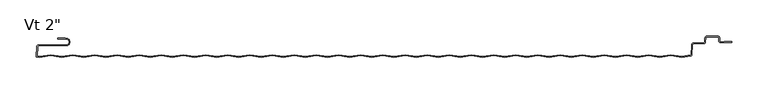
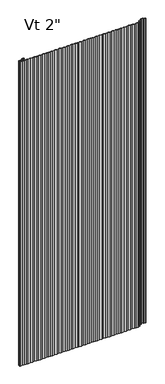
"""IFC4 building model written with IfcOpenShell, lengths in millimetres: plate geometry."""

from ifc_helpers import new_model, si_unit, point, frame, origin, place, context, project, spatial, polyline, circle_curve, ellipse_curve, trimmed, source, transform, mapped, element, save
from ifc_brep_helpers import plane_surface, cylinder_surface, revolved_surface, extruded_surface, advanced_brep


def plate_464a89f8(model_context):
    return source(origin(), model_context, "Body", "AdvancedBrep", [
        advanced_brep(
        [(-480.4252049, -25.4, 2400.0), (-480.4252049, -26.9875, 2400.0), (-469.1142674, -26.9875, 2400.0), (-469.1142674, -34.925, 2400.0), (-507.2975721, -34.925, 2400.0), (-509.6755586, -37.181625, 2400.0), (-510.41832, -51.3543553, 2400.0), (-506.0646686, -52.0509395, 2400.0), (-490.8246686, -49.6125395, 2400.0), (-475.5846686, -52.0509395, 2400.0), (-460.3446686, -49.6125395, 2400.0), (-445.1046686, -52.0509395, 2400.0), (-429.8646686, -49.6125395, 2400.0), (-414.6246686, -52.0509395, 2400.0), (-399.3846686, -49.6125395, 2400.0), (-384.1446686, -52.0509395, 2400.0), (-368.9046686, -49.6125395, 2400.0), (-353.6646686, -52.0509395, 2400.0), (-338.4246686, -49.6125395, 2400.0), (-323.1846686, -52.0509395, 2400.0), (-307.9446686, -49.6125395, 2400.0), (-292.7046686, -52.0509395, 2400.0), (-277.4646686, -49.6125395, 2400.0), (-262.2246686, -52.0509395, 2400.0), (-246.9846686, -49.6125395, 2400.0), (-231.7446686, -52.0509395, 2400.0), (-216.5046686, -49.6125395, 2400.0), (-201.2646686, -52.0509395, 2400.0), (-186.0246686, -49.6125395, 2400.0), (-170.7846686, -52.0509395, 2400.0), (-155.5446686, -49.6125395, 2400.0), (-140.3046686, -52.0509395, 2400.0), (-125.0646686, -49.6125395, 2400.0), (-109.8246686, -52.0509395, 2400.0), (-94.5846686, -49.6125395, 2400.0), (-79.3446686, -52.0509395, 2400.0), (-64.1046686, -49.6125395, 2400.0), (-48.8646686, -52.0509395, 2400.0), (-33.6246686, -49.6125395, 2400.0), (-18.3846686, -52.0509395, 2400.0), (-3.1446686, -49.6125395, 2400.0), (12.0953314, -52.0509395, 2400.0), (27.3353314, -49.6125395, 2400.0), (42.5753314, -52.0509395, 2400.0), (57.8153314, -49.6125395, 2400.0), (73.0553314, -52.0509395, 2400.0), (88.2953314, -49.6125395, 2400.0), (103.5353314, -52.0509395, 2400.0), (118.7753314, -49.6125395, 2400.0), (134.0153314, -52.0509395, 2400.0), (149.2553314, -49.6125395, 2400.0), (164.4953314, -52.0509395, 2400.0), (179.7353314, -49.6125395, 2400.0), (194.9753314, -52.0509395, 2400.0), (210.2153314, -49.6125395, 2400.0), (225.4553314, -52.0509395, 2400.0), (240.6953314, -49.6125395, 2400.0), (255.9353314, -52.0509395, 2400.0), (271.1753314, -49.6125395, 2400.0), (286.4153314, -52.0509395, 2400.0), (301.6553314, -49.6125395, 2400.0), (316.8953314, -52.0509395, 2400.0), (332.1353314, -49.6125395, 2400.0), (347.3753314, -52.0509395, 2400.0), (362.6153314, -49.6125395, 2400.0), (377.6527639, -52.0185287, 2400.0), (390.0944828, -50.0278537, 2400.0), (391.4289973, -48.543375, 2400.0), (392.1470603, -34.8419167, 2400.0), (393.7323847, -33.3375, 2400.0), (407.8886911, -33.3375, 2400.0), (410.2666776, -31.080875, 2400.0), (410.5687539, -25.3169167, 2400.0), (412.1540783, -23.8125, 2400.0), (427.0294826, -23.8125, 2400.0), (428.6169826, -25.4, 2400.0), (428.6169826, -29.5671875, 2400.0), (430.9982326, -31.9484375, 2400.0), (445.4898532, -31.9484375, 2400.0), (445.4898532, -30.1546875, 2400.0), (435.7607326, -30.1546875, 2400.0), (435.7607326, -30.9484375, 2400.0), (430.9982326, -30.9484375, 2400.0), (429.6169826, -29.5671875, 2400.0), (429.6169826, -25.4, 2400.0), (427.0294826, -22.8125, 2400.0), (412.1540783, -22.8125, 2400.0), (409.5701244, -25.2645807, 2400.0), (409.2680481, -31.028539, 2400.0), (407.8886911, -32.3375, 2400.0), (393.7323847, -32.3375, 2400.0), (391.1484307, -34.7895807, 2400.0), (390.4303677, -48.491039, 2400.0), (389.9364923, -49.040413, 2400.0), (377.6527639, -51.0058096, 2400.0), (362.6153314, -48.5998204, 2400.0), (347.3753314, -51.0382204, 2400.0), (332.1353314, -48.5998204, 2400.0), (316.8953314, -51.0382204, 2400.0), (301.6553314, -48.5998204, 2400.0), (286.4153314, -51.0382204, 2400.0), (271.1753314, -48.5998204, 2400.0), (255.9353314, -51.0382204, 2400.0), (240.6953314, -48.5998204, 2400.0), (225.4553314, -51.0382204, 2400.0), (210.2153314, -48.5998204, 2400.0), (194.9753314, -51.0382204, 2400.0), (179.7353314, -48.5998204, 2400.0), (164.4953314, -51.0382204, 2400.0), (149.2553314, -48.5998204, 2400.0), (134.0153314, -51.0382204, 2400.0), (118.7753314, -48.5998204, 2400.0), (103.5353314, -51.0382204, 2400.0), (88.2953314, -48.5998204, 2400.0), (73.0553314, -51.0382204, 2400.0), (57.8153314, -48.5998204, 2400.0), (42.5753314, -51.0382204, 2400.0), (27.3353314, -48.5998204, 2400.0), (12.0953314, -51.0382204, 2400.0), (-3.1446686, -48.5998204, 2400.0), (-18.3846686, -51.0382204, 2400.0), (-33.6246686, -48.5998204, 2400.0), (-48.8646686, -51.0382204, 2400.0), (-64.1046686, -48.5998204, 2400.0), (-79.3446686, -51.0382204, 2400.0), (-94.5846686, -48.5998204, 2400.0), (-109.8246686, -51.0382204, 2400.0), (-125.0646686, -48.5998204, 2400.0), (-140.3046686, -51.0382204, 2400.0), (-155.5446686, -48.5998204, 2400.0), (-170.7846686, -51.0382204, 2400.0), (-186.0246686, -48.5998204, 2400.0), (-201.2646686, -51.0382204, 2400.0), (-216.5046686, -48.5998204, 2400.0), (-231.7446686, -51.0382204, 2400.0), (-246.9846686, -48.5998204, 2400.0), (-262.2246686, -51.0382204, 2400.0), (-277.4646686, -48.5998204, 2400.0), (-292.7046686, -51.0382204, 2400.0), (-307.9446686, -48.5998204, 2400.0), (-323.1846686, -51.0382204, 2400.0), (-338.4246686, -48.5998204, 2400.0), (-353.6646686, -51.0382204, 2400.0), (-368.9046686, -48.5998204, 2400.0), (-384.1446686, -51.0382204, 2400.0), (-399.3846686, -48.5998204, 2400.0), (-414.6246686, -51.0382204, 2400.0), (-429.8646686, -48.5998204, 2400.0), (-445.1046686, -51.0382204, 2400.0), (-460.3446686, -48.5998204, 2400.0), (-475.5846686, -51.0382204, 2400.0), (-490.8246686, -48.5998204, 2400.0), (-506.0646686, -51.0382204, 2400.0), (-509.3726415, -50.5089447, 2400.0), (-508.6769291, -37.233961, 2400.0), (-507.2975721, -35.925, 2400.0), (-469.1142674, -35.925, 2400.0), (-469.1142674, -25.9875, 2400.0), (-470.7017674, -26.19375, 2400.0), (-470.7017674, -25.4, 2400.0), (-480.4252049, -25.4, 0.0), (-470.7017674, -25.4, 0.0), (-470.7017674, -26.19375, 0.0), (-469.1142674, -25.9875, 0.0), (-469.1142674, -35.925, 0.0), (-507.2975721, -35.925, 0.0), (-508.6769291, -37.233961, 0.0), (-509.3726415, -50.5089447, 0.0), (-506.0646686, -51.0382204, 0.0), (-490.8246686, -48.5998204, 0.0), (-475.5846686, -51.0382204, 0.0), (-460.3446686, -48.5998204, 0.0), (-445.1046686, -51.0382204, 0.0), (-429.8646686, -48.5998204, 0.0), (-414.6246686, -51.0382204, 0.0), (-399.3846686, -48.5998204, 0.0), (-384.1446686, -51.0382204, 0.0), (-368.9046686, -48.5998204, 0.0), (-353.6646686, -51.0382204, 0.0), (-338.4246686, -48.5998204, 0.0), (-323.1846686, -51.0382204, 0.0), (-307.9446686, -48.5998204, 0.0), (-292.7046686, -51.0382204, 0.0), (-277.4646686, -48.5998204, 0.0), (-262.2246686, -51.0382204, 0.0), (-246.9846686, -48.5998204, 0.0), (-231.7446686, -51.0382204, 0.0), (-216.5046686, -48.5998204, 0.0), (-201.2646686, -51.0382204, 0.0), (-186.0246686, -48.5998204, 0.0), (-170.7846686, -51.0382204, 0.0), (-155.5446686, -48.5998204, 0.0), (-140.3046686, -51.0382204, 0.0), (-125.0646686, -48.5998204, 0.0), (-109.8246686, -51.0382204, 0.0), (-94.5846686, -48.5998204, 0.0), (-79.3446686, -51.0382204, 0.0), (-64.1046686, -48.5998204, 0.0), (-48.8646686, -51.0382204, 0.0), (-33.6246686, -48.5998204, 0.0), (-18.3846686, -51.0382204, 0.0), (-3.1446686, -48.5998204, 0.0), (12.0953314, -51.0382204, 0.0), (27.3353314, -48.5998204, 0.0), (42.5753314, -51.0382204, 0.0), (57.8153314, -48.5998204, 0.0), (73.0553314, -51.0382204, 0.0), (88.2953314, -48.5998204, 0.0), (103.5353314, -51.0382204, 0.0), (118.7753314, -48.5998204, 0.0), (134.0153314, -51.0382204, 0.0), (149.2553314, -48.5998204, 0.0), (164.4953314, -51.0382204, 0.0), (179.7353314, -48.5998204, 0.0), (194.9753314, -51.0382204, 0.0), (210.2153314, -48.5998204, 0.0), (225.4553314, -51.0382204, 0.0), (240.6953314, -48.5998204, 0.0), (255.9353314, -51.0382204, 0.0), (271.1753314, -48.5998204, 0.0), (286.4153314, -51.0382204, 0.0), (301.6553314, -48.5998204, 0.0), (316.8953314, -51.0382204, 0.0), (332.1353314, -48.5998204, 0.0), (347.3753314, -51.0382204, 0.0), (362.6153314, -48.5998204, 0.0), (377.6527639, -51.0058096, 0.0), (389.9364923, -49.040413, 0.0), (390.4303677, -48.491039, 0.0), (391.1484307, -34.7895807, 0.0), (393.7323847, -32.3375, 0.0), (407.8886911, -32.3375, 0.0), (409.2680481, -31.028539, 0.0), (409.5701244, -25.2645807, 0.0), (412.1540783, -22.8125, 0.0), (427.0294826, -22.8125, 0.0), (429.6169826, -25.4, 0.0), (429.6169826, -29.5671875, 0.0), (430.9982326, -30.9484375, 0.0), (435.7607326, -30.9484375, 0.0), (435.7607326, -30.1546875, 0.0), (445.4898532, -30.1546875, 0.0), (445.4898532, -31.9484375, 0.0), (430.9982326, -31.9484375, 0.0), (428.6169826, -29.5671875, 0.0), (428.6169826, -25.4, 0.0), (427.0294826, -23.8125, 0.0), (412.1540783, -23.8125, 0.0), (410.5687539, -25.3169167, 0.0), (410.2666776, -31.080875, 0.0), (407.8886911, -33.3375, 0.0), (393.7323847, -33.3375, 0.0), (392.1470603, -34.8419167, 0.0), (391.4289973, -48.543375, 0.0), (390.0944828, -50.0278537, 0.0), (377.6527639, -52.0185287, 0.0), (362.6153314, -49.6125395, 0.0), (347.3753314, -52.0509395, 0.0), (332.1353314, -49.6125395, 0.0), (316.8953314, -52.0509395, 0.0), (301.6553314, -49.6125395, 0.0), (286.4153314, -52.0509395, 0.0), (271.1753314, -49.6125395, 0.0), (255.9353314, -52.0509395, 0.0), (240.6953314, -49.6125395, 0.0), (225.4553314, -52.0509395, 0.0), (210.2153314, -49.6125395, 0.0), (194.9753314, -52.0509395, 0.0), (179.7353314, -49.6125395, 0.0), (164.4953314, -52.0509395, 0.0), (149.2553314, -49.6125395, 0.0), (134.0153314, -52.0509395, 0.0), (118.7753314, -49.6125395, 0.0), (103.5353314, -52.0509395, 0.0), (88.2953314, -49.6125395, 0.0), (73.0553314, -52.0509395, 0.0), (57.8153314, -49.6125395, 0.0), (42.5753314, -52.0509395, 0.0), (27.3353314, -49.6125395, 0.0), (12.0953314, -52.0509395, 0.0), (-3.1446686, -49.6125395, 0.0), (-18.3846686, -52.0509395, 0.0), (-33.6246686, -49.6125395, 0.0), (-48.8646686, -52.0509395, 0.0), (-64.1046686, -49.6125395, 0.0), (-79.3446686, -52.0509395, 0.0), (-94.5846686, -49.6125395, 0.0), (-109.8246686, -52.0509395, 0.0), (-125.0646686, -49.6125395, 0.0), (-140.3046686, -52.0509395, 0.0), (-155.5446686, -49.6125395, 0.0), (-170.7846686, -52.0509395, 0.0), (-186.0246686, -49.6125395, 0.0), (-201.2646686, -52.0509395, 0.0), (-216.5046686, -49.6125395, 0.0), (-231.7446686, -52.0509395, 0.0), (-246.9846686, -49.6125395, 0.0), (-262.2246686, -52.0509395, 0.0), (-277.4646686, -49.6125395, 0.0), (-292.7046686, -52.0509395, 0.0), (-307.9446686, -49.6125395, 0.0), (-323.1846686, -52.0509395, 0.0), (-338.4246686, -49.6125395, 0.0), (-353.6646686, -52.0509395, 0.0), (-368.9046686, -49.6125395, 0.0), (-384.1446686, -52.0509395, 0.0), (-399.3846686, -49.6125395, 0.0), (-414.6246686, -52.0509395, 0.0), (-429.8646686, -49.6125395, 0.0), (-445.1046686, -52.0509395, 0.0), (-460.3446686, -49.6125395, 0.0), (-475.5846686, -52.0509395, 0.0), (-490.8246686, -49.6125395, 0.0), (-506.0646686, -52.0509395, 0.0), (-510.41832, -51.3543553, 0.0), (-509.6755586, -37.181625, 0.0), (-507.2975721, -34.925, 0.0), (-469.1142674, -34.925, 0.0), (-469.1142674, -26.9875, 0.0), (-480.4252049, -26.9875, 0.0)],
        [
            (0, 1, circle_curve(frame((-480.4252049, -26.19375, 2400.0), z_axis=(0.0, 0.0, 1.0), x_axis=(1.0, 0.0, 0.0)), 0.79375)),
            (1, 2),
            (2, 3, circle_curve(frame((-469.1142674, -30.95625, 2400.0), z_axis=(0.0, 0.0, -1.0), x_axis=(1.0, 0.0, 0.0)), 3.96875)),
            (3, 4),
            (4, 5, circle_curve(frame((-507.2975721, -37.30625, 2400.0), z_axis=(0.0, 0.0, 1.0), x_axis=(1.0, 0.0, 0.0)), 2.38125)),
            (5, 6),
            (6, 7),
            (7, 8),
            (8, 9),
            (9, 10),
            (10, 11),
            (11, 12),
            (12, 13),
            (13, 14),
            (14, 15),
            (15, 16),
            (16, 17),
            (17, 18),
            (18, 19),
            (19, 20),
            (20, 21),
            (21, 22),
            (22, 23),
            (23, 24),
            (24, 25),
            (25, 26),
            (26, 27),
            (27, 28),
            (28, 29),
            (29, 30),
            (30, 31),
            (31, 32),
            (32, 33),
            (33, 34),
            (34, 35),
            (35, 36),
            (36, 37),
            (37, 38),
            (38, 39),
            (39, 40),
            (40, 41),
            (41, 42),
            (42, 43),
            (43, 44),
            (44, 45),
            (45, 46),
            (46, 47),
            (47, 48),
            (48, 49),
            (49, 50),
            (50, 51),
            (51, 52),
            (52, 53),
            (53, 54),
            (54, 55),
            (55, 56),
            (56, 57),
            (57, 58),
            (58, 59),
            (59, 60),
            (60, 61),
            (61, 62),
            (62, 63),
            (63, 64),
            (64, 65),
            (65, 66),
            (66, 67, circle_curve(frame((389.8436729, -48.4602917, 2400.0), z_axis=(0.0, 0.0, 1.0), x_axis=(1.0, 0.0, 0.0)), 1.5875)),
            (67, 68),
            (68, 69, circle_curve(frame((393.7323847, -34.925, 2400.0), z_axis=(0.0, 0.0, -1.0), x_axis=(1.0, 0.0, 0.0)), 1.5875)),
            (69, 70),
            (70, 71, circle_curve(frame((407.8886911, -30.95625, 2400.0), z_axis=(0.0, 0.0, 1.0), x_axis=(1.0, 0.0, 0.0)), 2.38125)),
            (71, 72),
            (72, 73, circle_curve(frame((412.1540783, -25.4, 2400.0), z_axis=(0.0, 0.0, -1.0), x_axis=(1.0, 0.0, 0.0)), 1.5875)),
            (73, 74),
            (74, 75, circle_curve(frame((427.0294826, -25.4, 2400.0), z_axis=(0.0, 0.0, -1.0), x_axis=(1.0, 0.0, 0.0)), 1.5875)),
            (75, 76),
            (76, 77, circle_curve(frame((430.9982326, -29.5671875, 2400.0), z_axis=(0.0, 0.0, 1.0), x_axis=(1.0, 0.0, 0.0)), 2.38125)),
            (77, 78),
            (78, 79, ellipse_curve(frame((445.4898532, -31.0515625, 2400.0), z_axis=(0.0, 0.0, 1.0), x_axis=(0.0, 1.0, 0.0)), 0.896875, 0.7852275)),
            (79, 80),
            (80, 81),
            (81, 82),
            (82, 83, circle_curve(frame((430.9982326, -29.5671875, 2400.0), z_axis=(0.0, 0.0, -1.0), x_axis=(1.0, 0.0, 0.0)), 1.38125)),
            (83, 84),
            (84, 85, circle_curve(frame((427.0294826, -25.4, 2400.0), z_axis=(0.0, 0.0, 1.0), x_axis=(1.0, 0.0, 0.0)), 2.5875)),
            (85, 86),
            (86, 87, circle_curve(frame((412.1540783, -25.4, 2400.0), z_axis=(0.0, 0.0, 1.0), x_axis=(1.0, 0.0, 0.0)), 2.5875)),
            (87, 88),
            (88, 89, circle_curve(frame((407.8886911, -30.95625, 2400.0), z_axis=(0.0, 0.0, -1.0), x_axis=(1.0, 0.0, 0.0)), 1.38125)),
            (89, 90),
            (90, 91, circle_curve(frame((393.7323847, -34.925, 2400.0), z_axis=(0.0, 0.0, 1.0), x_axis=(1.0, 0.0, 0.0)), 2.5875)),
            (91, 92),
            (92, 93, circle_curve(frame((389.8436729, -48.4602917, 2400.0), z_axis=(0.0, 0.0, -1.0), x_axis=(1.0, 0.0, 0.0)), 0.5875)),
            (93, 94),
            (94, 95),
            (95, 96),
            (96, 97),
            (97, 98),
            (98, 99),
            (99, 100),
            (100, 101),
            (101, 102),
            (102, 103),
            (103, 104),
            (104, 105),
            (105, 106),
            (106, 107),
            (107, 108),
            (108, 109),
            (109, 110),
            (110, 111),
            (111, 112),
            (112, 113),
            (113, 114),
            (114, 115),
            (115, 116),
            (116, 117),
            (117, 118),
            (118, 119),
            (119, 120),
            (120, 121),
            (121, 122),
            (122, 123),
            (123, 124),
            (124, 125),
            (125, 126),
            (126, 127),
            (127, 128),
            (128, 129),
            (129, 130),
            (130, 131),
            (131, 132),
            (132, 133),
            (133, 134),
            (134, 135),
            (135, 136),
            (136, 137),
            (137, 138),
            (138, 139),
            (139, 140),
            (140, 141),
            (141, 142),
            (142, 143),
            (143, 144),
            (144, 145),
            (145, 146),
            (146, 147),
            (147, 148),
            (148, 149),
            (149, 150),
            (150, 151),
            (151, 152),
            (152, 153),
            (153, 154),
            (154, 155, circle_curve(frame((-507.2975721, -37.30625, 2400.0), z_axis=(0.0, 0.0, -1.0), x_axis=(1.0, 0.0, 0.0)), 1.38125)),
            (155, 156),
            (156, 157, circle_curve(frame((-469.1142674, -30.95625, 2400.0), z_axis=(0.0, 0.0, 1.0), x_axis=(1.0, 0.0, 0.0)), 4.96875)),
            (157, 158),
            (158, 159),
            (159, 0),
            (160, 161),
            (161, 162),
            (162, 163),
            (163, 164, circle_curve(frame((-469.1142674, -30.95625, 0.0), z_axis=(0.0, 0.0, -1.0), x_axis=(1.0, 0.0, 0.0)), 4.96875)),
            (164, 165),
            (165, 166, circle_curve(frame((-507.2975721, -37.30625, 0.0), z_axis=(0.0, 0.0, 1.0), x_axis=(1.0, 0.0, 0.0)), 1.38125)),
            (166, 167),
            (167, 168),
            (168, 169),
            (169, 170),
            (170, 171),
            (171, 172),
            (172, 173),
            (173, 174),
            (174, 175),
            (175, 176),
            (176, 177),
            (177, 178),
            (178, 179),
            (179, 180),
            (180, 181),
            (181, 182),
            (182, 183),
            (183, 184),
            (184, 185),
            (185, 186),
            (186, 187),
            (187, 188),
            (188, 189),
            (189, 190),
            (190, 191),
            (191, 192),
            (192, 193),
            (193, 194),
            (194, 195),
            (195, 196),
            (196, 197),
            (197, 198),
            (198, 199),
            (199, 200),
            (200, 201),
            (201, 202),
            (202, 203),
            (203, 204),
            (204, 205),
            (205, 206),
            (206, 207),
            (207, 208),
            (208, 209),
            (209, 210),
            (210, 211),
            (211, 212),
            (212, 213),
            (213, 214),
            (214, 215),
            (215, 216),
            (216, 217),
            (217, 218),
            (218, 219),
            (219, 220),
            (220, 221),
            (221, 222),
            (222, 223),
            (223, 224),
            (224, 225),
            (225, 226),
            (226, 227),
            (227, 228, circle_curve(frame((389.8436729, -48.4602917, 0.0), z_axis=(0.0, 0.0, 1.0), x_axis=(1.0, 0.0, 0.0)), 0.5875)),
            (228, 229),
            (229, 230, circle_curve(frame((393.7323847, -34.925, 0.0), z_axis=(0.0, 0.0, -1.0), x_axis=(1.0, 0.0, 0.0)), 2.5875)),
            (230, 231),
            (231, 232, circle_curve(frame((407.8886911, -30.95625, 0.0), z_axis=(0.0, 0.0, 1.0), x_axis=(1.0, 0.0, 0.0)), 1.38125)),
            (232, 233),
            (233, 234, circle_curve(frame((412.1540783, -25.4, 0.0), z_axis=(0.0, 0.0, -1.0), x_axis=(1.0, 0.0, 0.0)), 2.5875)),
            (234, 235),
            (235, 236, circle_curve(frame((427.0294826, -25.4, 0.0), z_axis=(0.0, 0.0, -1.0), x_axis=(1.0, 0.0, 0.0)), 2.5875)),
            (236, 237),
            (237, 238, circle_curve(frame((430.9982326, -29.5671875, 0.0), z_axis=(0.0, 0.0, 1.0), x_axis=(1.0, 0.0, 0.0)), 1.38125)),
            (238, 239),
            (239, 240),
            (240, 241),
            (241, 242, ellipse_curve(frame((445.4898532, -31.0515625, 0.0), z_axis=(0.0, 0.0, -1.0), x_axis=(0.0, 1.0, 0.0)), 0.896875, 0.7852275)),
            (242, 243),
            (243, 244, circle_curve(frame((430.9982326, -29.5671875, 0.0), z_axis=(0.0, 0.0, -1.0), x_axis=(1.0, 0.0, 0.0)), 2.38125)),
            (244, 245),
            (245, 246, circle_curve(frame((427.0294826, -25.4, 0.0), z_axis=(0.0, 0.0, 1.0), x_axis=(1.0, 0.0, 0.0)), 1.5875)),
            (246, 247),
            (247, 248, circle_curve(frame((412.1540783, -25.4, 0.0), z_axis=(0.0, 0.0, 1.0), x_axis=(1.0, 0.0, 0.0)), 1.5875)),
            (248, 249),
            (249, 250, circle_curve(frame((407.8886911, -30.95625, 0.0), z_axis=(0.0, 0.0, -1.0), x_axis=(1.0, 0.0, 0.0)), 2.38125)),
            (250, 251),
            (251, 252, circle_curve(frame((393.7323847, -34.925, 0.0), z_axis=(0.0, 0.0, 1.0), x_axis=(1.0, 0.0, 0.0)), 1.5875)),
            (252, 253),
            (253, 254, circle_curve(frame((389.8436729, -48.4602917, 0.0), z_axis=(0.0, 0.0, -1.0), x_axis=(1.0, 0.0, 0.0)), 1.5875)),
            (254, 255),
            (255, 256),
            (256, 257),
            (257, 258),
            (258, 259),
            (259, 260),
            (260, 261),
            (261, 262),
            (262, 263),
            (263, 264),
            (264, 265),
            (265, 266),
            (266, 267),
            (267, 268),
            (268, 269),
            (269, 270),
            (270, 271),
            (271, 272),
            (272, 273),
            (273, 274),
            (274, 275),
            (275, 276),
            (276, 277),
            (277, 278),
            (278, 279),
            (279, 280),
            (280, 281),
            (281, 282),
            (282, 283),
            (283, 284),
            (284, 285),
            (285, 286),
            (286, 287),
            (287, 288),
            (288, 289),
            (289, 290),
            (290, 291),
            (291, 292),
            (292, 293),
            (293, 294),
            (294, 295),
            (295, 296),
            (296, 297),
            (297, 298),
            (298, 299),
            (299, 300),
            (300, 301),
            (301, 302),
            (302, 303),
            (303, 304),
            (304, 305),
            (305, 306),
            (306, 307),
            (307, 308),
            (308, 309),
            (309, 310),
            (310, 311),
            (311, 312),
            (312, 313),
            (313, 314),
            (314, 315),
            (315, 316, circle_curve(frame((-507.2975721, -37.30625, 0.0), z_axis=(0.0, 0.0, -1.0), x_axis=(1.0, 0.0, 0.0)), 2.38125)),
            (316, 317),
            (317, 318, circle_curve(frame((-469.1142674, -30.95625, 0.0), z_axis=(0.0, 0.0, 1.0), x_axis=(1.0, 0.0, 0.0)), 3.96875)),
            (318, 319),
            (319, 160, circle_curve(frame((-480.4252049, -26.19375, 0.0), z_axis=(0.0, 0.0, -1.0), x_axis=(1.0, 0.0, 0.0)), 0.79375)),
            (159, 161),
            (160, 0),
            (319, 1),
            (318, 2),
            (317, 3),
            (316, 4),
            (315, 5),
            (314, 6),
            (68, 252),
            (251, 69),
            (250, 70),
            (249, 71),
            (248, 72),
            (247, 73),
            (154, 166),
            (165, 155),
            (90, 230),
            (229, 91),
            (89, 231),
            (88, 232),
            (87, 233),
            (86, 234),
            (81, 239),
            (238, 82),
            (237, 83),
            (236, 84),
            (246, 74),
            (245, 75),
            (244, 76),
            (243, 77),
            (242, 78),
            (85, 235),
            (164, 156),
            (163, 157),
            (158, 162),
            (80, 240),
            (79, 241),
            (95, 225),
            (224, 96),
            (223, 97),
            (222, 98),
            (221, 99),
            (220, 100),
            (219, 101),
            (218, 102),
            (217, 103),
            (216, 104),
            (215, 105),
            (214, 106),
            (213, 107),
            (212, 108),
            (211, 109),
            (147, 173),
            (172, 148),
            (171, 149),
            (170, 150),
            (169, 151),
            (168, 152),
            (167, 153),
            (313, 7),
            (312, 8),
            (311, 9),
            (310, 10),
            (309, 11),
            (308, 12),
            (36, 284),
            (283, 37),
            (282, 38),
            (50, 270),
            (269, 51),
            (268, 52),
            (267, 53),
            (266, 54),
            (265, 55),
            (264, 56),
            (263, 57),
            (262, 58),
            (261, 59),
            (260, 60),
            (259, 61),
            (258, 62),
            (257, 63),
            (256, 64),
            (65, 255),
            (254, 66),
            (253, 67),
            (92, 228),
            (227, 93),
            (226, 94),
            (123, 197),
            (196, 124),
            (195, 125),
            (194, 126),
            (49, 271),
            (48, 272),
            (47, 273),
            (46, 274),
            (45, 275),
            (44, 276),
            (43, 277),
            (42, 278),
            (41, 279),
            (40, 280),
            (39, 281),
            (122, 198),
            (121, 199),
            (120, 200),
            (119, 201),
            (118, 202),
            (117, 203),
            (116, 204),
            (115, 205),
            (114, 206),
            (113, 207),
            (112, 208),
            (111, 209),
            (110, 210),
            (135, 185),
            (184, 136),
            (183, 137),
            (193, 127),
            (192, 128),
            (191, 129),
            (130, 190),
            (189, 131),
            (188, 132),
            (133, 187),
            (186, 134),
            (22, 298),
            (297, 23),
            (24, 296),
            (295, 25),
            (294, 26),
            (293, 27),
            (292, 28),
            (291, 29),
            (290, 30),
            (289, 31),
            (288, 32),
            (287, 33),
            (286, 34),
            (285, 35),
            (182, 138),
            (181, 139),
            (180, 140),
            (179, 141),
            (178, 142),
            (177, 143),
            (16, 304),
            (303, 17),
            (302, 18),
            (301, 19),
            (300, 20),
            (299, 21),
            (176, 144),
            (175, 145),
            (174, 146),
            (307, 13),
            (306, 14),
            (305, 15),
        ],
        [
            plane_surface(frame((0.00625, -50.8, 2400.0), z_axis=(0.0, 0.0, 1.0), x_axis=(0.0, -1.0, 0.0))),
            plane_surface(frame((0.00625, -50.8, 0.0), z_axis=(0.0, 0.0, -1.0), x_axis=(0.0, -1.0, 0.0))),
            plane_surface(frame((-480.4252049, -25.4, 2400.0), z_axis=(0.0, 1.0, 0.0), x_axis=(0.0, 0.0, -1.0))),
            cylinder_surface(frame((-480.4252049, -26.19375, 2400.0), z_axis=(0.0, 0.0, 1.0), x_axis=(1.0, 0.0, 0.0)), 0.79375),
            plane_surface(frame((-469.1142674, -26.9875, 2400.0), z_axis=(0.0, -1.0, 0.0), x_axis=(0.0, 0.0, -1.0))),
            revolved_surface(polyline([(-465.1455174, -30.95625, 0.0), (-465.1455174, -30.95625, 2400.0)]), (-469.1142674, -30.95625, 2400.0), (0.0, 0.0, -1.0)),
            plane_surface(frame((-507.2975721, -34.925, 2400.0), z_axis=(0.0, 1.0, 0.0), x_axis=(0.0, 0.0, -1.0))),
            cylinder_surface(frame((-507.2975721, -37.30625, 2400.0), z_axis=(0.0, 0.0, 1.0), x_axis=(1.0, 0.0, 0.0)), 2.38125),
            plane_surface(frame((-510.41832, -51.3543553, 2400.0), z_axis=(-0.9986295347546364, 0.05233595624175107, 0.0), x_axis=(0.0, 0.0, -1.0))),
            revolved_surface(polyline([(395.3198847, -34.925, 0.0), (395.3198847, -34.925, 2400.0)]), (393.7323847, -34.925, 2400.0), (0.0, 0.0, -1.0)),
            plane_surface(frame((407.8886911, -33.3375, 2400.0), z_axis=(0.0, -1.0, 0.0), x_axis=(0.0, 0.0, -1.0))),
            cylinder_surface(frame((407.8886911, -30.95625, 2400.0), z_axis=(0.0, 0.0, 1.0), x_axis=(1.0, 0.0, 0.0)), 2.38125),
            plane_surface(frame((410.5687539, -25.3169167, 2400.0), z_axis=(0.9986295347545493, -0.052335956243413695, 0.0), x_axis=(0.0, 0.0, -1.0))),
            revolved_surface(polyline([(413.74157829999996, -25.4, 0.0), (413.74157829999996, -25.4, 2400.0)]), (412.1540783, -25.4, 2400.0), (0.0, 0.0, -1.0)),
            revolved_surface(polyline([(-505.9163221, -37.30625, 0.0), (-505.9163221, -37.30625, 2400.0)]), (-507.2975721, -37.30625, 2400.0), (0.0, 0.0, -1.0)),
            cylinder_surface(frame((393.7323847, -34.925, 2400.0), z_axis=(0.0, 0.0, 1.0), x_axis=(1.0, 0.0, 0.0)), 2.5875),
            plane_surface(frame((393.7323847, -32.3375, 2400.0), z_axis=(0.0, 1.0, 0.0), x_axis=(0.0, 0.0, -1.0))),
            revolved_surface(polyline([(409.26994110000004, -30.95625, 0.0), (409.26994110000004, -30.95625, 2400.0)]), (407.8886911, -30.95625, 2400.0), (0.0, 0.0, -1.0)),
            plane_surface(frame((409.2680481, -31.028539, 2400.0), z_axis=(-0.998629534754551, 0.05233595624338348, 0.0), x_axis=(0.0, 0.0, -1.0))),
            cylinder_surface(frame((412.1540783, -25.4, 2400.0), z_axis=(0.0, 0.0, 1.0), x_axis=(1.0, 0.0, 0.0)), 2.5875),
            plane_surface(frame((430.9982326, -30.9484375, 2400.0), z_axis=(0.0, 1.0, 0.0), x_axis=(0.0, 0.0, -1.0))),
            revolved_surface(polyline([(432.3794826, -29.5671875, 0.0), (432.3794826, -29.5671875, 2400.0)]), (430.9982326, -29.5671875, 2400.0), (0.0, 0.0, -1.0)),
            plane_surface(frame((429.6169826, -25.4, 2400.0), z_axis=(1.0, 0.0, 0.0), x_axis=(0.0, 0.0, -1.0))),
            plane_surface(frame((427.0294826, -23.8125, 2400.0), z_axis=(0.0, -1.0, 0.0), x_axis=(0.0, 0.0, -1.0))),
            revolved_surface(polyline([(428.6169826, -25.4, 0.0), (428.6169826, -25.4, 2400.0)]), (427.0294826, -25.4, 2400.0), (0.0, 0.0, -1.0)),
            plane_surface(frame((428.6169826, -29.5671875, 2400.0), z_axis=(-1.0, 0.0, 0.0), x_axis=(0.0, 0.0, -1.0))),
            cylinder_surface(frame((430.9982326, -29.5671875, 2400.0), z_axis=(0.0, 0.0, 1.0), x_axis=(1.0, 0.0, 0.0)), 2.38125),
            plane_surface(frame((445.4898532, -31.9484375, 2400.0), z_axis=(0.0, -1.0, 0.0), x_axis=(0.0, 0.0, -1.0))),
            plane_surface(frame((412.1540783, -22.8125, 2400.0), z_axis=(0.0, 1.0, 0.0), x_axis=(0.0, 0.0, -1.0))),
            cylinder_surface(frame((427.0294826, -25.4, 2400.0), z_axis=(0.0, 0.0, 1.0), x_axis=(1.0, 0.0, 0.0)), 2.5875),
            plane_surface(frame((-469.1142674, -35.925, 2400.0), z_axis=(0.0, -1.0, 0.0), x_axis=(0.0, 0.0, -1.0))),
            cylinder_surface(frame((-469.1142674, -30.95625, 2400.0), z_axis=(0.0, 0.0, 1.0), x_axis=(1.0, 0.0, 0.0)), 4.96875),
            plane_surface(frame((-470.7017674, -25.4, 2400.0), z_axis=(1.0, 0.0, 0.0), x_axis=(0.0, 0.0, -1.0))),
            plane_surface(frame((-470.7017674, -26.19375, 2400.0), z_axis=(-0.12883844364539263, 0.9916655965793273, 0.0), x_axis=(0.0, 0.0, -1.0))),
            plane_surface(frame((435.7607326, -30.9484375, 2400.0), z_axis=(-1.0, 0.0, 0.0), x_axis=(0.0, 0.0, -1.0))),
            plane_surface(frame((435.7607326, -30.1546875, 2400.0), z_axis=(0.0, 1.0, 0.0), x_axis=(0.0, 0.0, -1.0))),
            extruded_surface(trimmed(ellipse_curve(frame((445.4898532, -31.0515625, 2400.0), z_axis=(0.0, 0.0, -1.0), x_axis=(0.0, 1.0, 0.0)), 0.896875, 0.7852275), [point((445.4898532, -30.1546875, 2400.0))], [point((445.4898532, -31.9484375, 2400.0))], True, "CARTESIAN"), (0.0, 0.0, -2400.0), 2400.0),
            plane_surface(frame((347.3753314, -51.0382204, 2400.0), z_axis=(-0.15799050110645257, 0.9874406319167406, 0.0), x_axis=(0.0, 0.0, -1.0))),
            plane_surface(frame((332.1353314, -48.5998204, 2400.0), z_axis=(0.157990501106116, 0.9874406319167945, 0.0), x_axis=(0.0, 0.0, -1.0))),
            plane_surface(frame((316.8953314, -51.0382204, 2400.0), z_axis=(-0.15799050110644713, 0.9874406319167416, 0.0), x_axis=(0.0, 0.0, -1.0))),
            plane_surface(frame((301.6553314, -48.5998204, 2400.0), z_axis=(0.157990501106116, 0.9874406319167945, 0.0), x_axis=(0.0, 0.0, -1.0))),
            plane_surface(frame((286.4153314, -51.0382204, 2400.0), z_axis=(-0.15799050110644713, 0.9874406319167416, 0.0), x_axis=(0.0, 0.0, -1.0))),
            plane_surface(frame((271.1753314, -48.5998204, 2400.0), z_axis=(0.157990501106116, 0.9874406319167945, 0.0), x_axis=(0.0, 0.0, -1.0))),
            plane_surface(frame((255.9353314, -51.0382204, 2400.0), z_axis=(-0.15799050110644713, 0.9874406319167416, 0.0), x_axis=(0.0, 0.0, -1.0))),
            plane_surface(frame((240.6953314, -48.5998204, 2400.0), z_axis=(0.15799050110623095, 0.9874406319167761, 0.0), x_axis=(0.0, 0.0, -1.0))),
            plane_surface(frame((225.4553314, -51.0382204, 2400.0), z_axis=(-0.15799050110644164, 0.9874406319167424, 0.0), x_axis=(0.0, 0.0, -1.0))),
            plane_surface(frame((210.2153314, -48.5998204, 2400.0), z_axis=(0.15799050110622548, 0.987440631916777, 0.0), x_axis=(0.0, 0.0, -1.0))),
            plane_surface(frame((194.9753314, -51.0382204, 2400.0), z_axis=(-0.15799050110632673, 0.9874406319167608, 0.0), x_axis=(0.0, 0.0, -1.0))),
            plane_surface(frame((179.7353314, -48.5998204, 2400.0), z_axis=(0.15799050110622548, 0.987440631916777, 0.0), x_axis=(0.0, 0.0, -1.0))),
            plane_surface(frame((164.4953314, -51.0382204, 2400.0), z_axis=(-0.15799050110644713, 0.9874406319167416, 0.0), x_axis=(0.0, 0.0, -1.0))),
            plane_surface(frame((149.2553314, -48.5998204, 2400.0), z_axis=(0.15799050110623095, 0.9874406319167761, 0.0), x_axis=(0.0, 0.0, -1.0))),
            plane_surface(frame((-445.1046686, -51.0382204, 2400.0), z_axis=(-0.15799050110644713, 0.9874406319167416, 0.0), x_axis=(0.0, 0.0, -1.0))),
            plane_surface(frame((-460.3446686, -48.5998204, 2400.0), z_axis=(0.15799050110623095, 0.9874406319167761, 0.0), x_axis=(0.0, 0.0, -1.0))),
            plane_surface(frame((-475.5846686, -51.0382204, 2400.0), z_axis=(-0.15799050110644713, 0.9874406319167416, 0.0), x_axis=(0.0, 0.0, -1.0))),
            plane_surface(frame((-490.8246686, -48.5998204, 2400.0), z_axis=(0.157990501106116, 0.9874406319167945, 0.0), x_axis=(0.0, 0.0, -1.0))),
            plane_surface(frame((-506.0646686, -51.0382204, 2400.0), z_axis=(-0.15799050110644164, 0.9874406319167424, 0.0), x_axis=(0.0, 0.0, -1.0))),
            plane_surface(frame((-509.3726415, -50.5089447, 2400.0), z_axis=(0.1579905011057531, 0.9874406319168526, 0.0), x_axis=(0.0, 0.0, -1.0))),
            plane_surface(frame((-506.0646686, -52.0509395, 2400.0), z_axis=(-0.15799050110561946, -0.9874406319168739, 0.0), x_axis=(0.0, 0.0, -1.0))),
            plane_surface(frame((-490.8246686, -49.6125395, 2400.0), z_axis=(0.15799050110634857, -0.9874406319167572, 0.0), x_axis=(0.0, 0.0, -1.0))),
            plane_surface(frame((-475.5846686, -52.0509395, 2400.0), z_axis=(-0.15799050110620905, -0.9874406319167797, 0.0), x_axis=(0.0, 0.0, -1.0))),
            plane_surface(frame((-460.3446686, -49.6125395, 2400.0), z_axis=(0.15799050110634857, -0.9874406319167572, 0.0), x_axis=(0.0, 0.0, -1.0))),
            plane_surface(frame((-445.1046686, -52.0509395, 2400.0), z_axis=(-0.15799050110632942, -0.9874406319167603, 0.0), x_axis=(0.0, 0.0, -1.0))),
            plane_surface(frame((-429.8646686, -49.6125395, 2400.0), z_axis=(0.15799050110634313, -0.9874406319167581, 0.0), x_axis=(0.0, 0.0, -1.0))),
            plane_surface(frame((-48.8646686, -52.0509395, 2400.0), z_axis=(-0.15799050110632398, -0.9874406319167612, 0.0), x_axis=(0.0, 0.0, -1.0))),
            plane_surface(frame((-33.6246686, -49.6125395, 2400.0), z_axis=(0.15799050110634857, -0.9874406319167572, 0.0), x_axis=(0.0, 0.0, -1.0))),
            plane_surface(frame((164.4953314, -52.0509395, 2400.0), z_axis=(-0.15799050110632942, -0.9874406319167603, 0.0), x_axis=(0.0, 0.0, -1.0))),
            plane_surface(frame((179.7353314, -49.6125395, 2400.0), z_axis=(0.15799050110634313, -0.9874406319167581, 0.0), x_axis=(0.0, 0.0, -1.0))),
            plane_surface(frame((194.9753314, -52.0509395, 2400.0), z_axis=(-0.15799050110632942, -0.9874406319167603, 0.0), x_axis=(0.0, 0.0, -1.0))),
            plane_surface(frame((210.2153314, -49.6125395, 2400.0), z_axis=(0.1579905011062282, -0.9874406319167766, 0.0), x_axis=(0.0, 0.0, -1.0))),
            plane_surface(frame((225.4553314, -52.0509395, 2400.0), z_axis=(-0.15799050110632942, -0.9874406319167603, 0.0), x_axis=(0.0, 0.0, -1.0))),
            plane_surface(frame((240.6953314, -49.6125395, 2400.0), z_axis=(0.15799050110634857, -0.9874406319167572, 0.0), x_axis=(0.0, 0.0, -1.0))),
            plane_surface(frame((255.9353314, -52.0509395, 2400.0), z_axis=(-0.15799050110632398, -0.9874406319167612, 0.0), x_axis=(0.0, 0.0, -1.0))),
            plane_surface(frame((271.1753314, -49.6125395, 2400.0), z_axis=(0.15799050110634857, -0.9874406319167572, 0.0), x_axis=(0.0, 0.0, -1.0))),
            plane_surface(frame((286.4153314, -52.0509395, 2400.0), z_axis=(-0.15799050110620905, -0.9874406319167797, 0.0), x_axis=(0.0, 0.0, -1.0))),
            plane_surface(frame((301.6553314, -49.6125395, 2400.0), z_axis=(0.15799050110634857, -0.9874406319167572, 0.0), x_axis=(0.0, 0.0, -1.0))),
            plane_surface(frame((316.8953314, -52.0509395, 2400.0), z_axis=(-0.15799050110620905, -0.9874406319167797, 0.0), x_axis=(0.0, 0.0, -1.0))),
            plane_surface(frame((332.1353314, -49.6125395, 2400.0), z_axis=(0.15799050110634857, -0.9874406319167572, 0.0), x_axis=(0.0, 0.0, -1.0))),
            plane_surface(frame((347.3753314, -52.0509395, 2400.0), z_axis=(-0.15799050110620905, -0.9874406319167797, 0.0), x_axis=(0.0, 0.0, -1.0))),
            plane_surface(frame((362.6153314, -49.6125395, 2400.0), z_axis=(0.15799050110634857, -0.9874406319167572, 0.0), x_axis=(0.0, 0.0, -1.0))),
            plane_surface(frame((390.0944828, -50.0278537, 2400.0), z_axis=(0.15799050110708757, -0.987440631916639, 0.0), x_axis=(0.0, 0.0, -1.0))),
            cylinder_surface(frame((389.8436729, -48.4602917, 2400.0), z_axis=(0.0, 0.0, 1.0), x_axis=(1.0, 0.0, 0.0)), 1.5875),
            revolved_surface(polyline([(390.4311729, -48.4602917, 0.0), (390.4311729, -48.4602917, 2400.0)]), (389.8436729, -48.4602917, 2400.0), (0.0, 0.0, -1.0)),
            plane_surface(frame((377.6527639, -51.0058096, 2400.0), z_axis=(-0.15799050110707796, 0.9874406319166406, 0.0), x_axis=(0.0, 0.0, -1.0))),
            plane_surface(frame((-79.3446686, -51.0382204, 2400.0), z_axis=(-0.15799050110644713, 0.9874406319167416, 0.0), x_axis=(0.0, 0.0, -1.0))),
            plane_surface(frame((-94.5846686, -48.5998204, 2400.0), z_axis=(0.157990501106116, 0.9874406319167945, 0.0), x_axis=(0.0, 0.0, -1.0))),
            plane_surface(frame((-109.8246686, -51.0382204, 2400.0), z_axis=(-0.15799050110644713, 0.9874406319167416, 0.0), x_axis=(0.0, 0.0, -1.0))),
            plane_surface(frame((149.2553314, -49.6125395, 2400.0), z_axis=(0.15799050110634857, -0.9874406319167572, 0.0), x_axis=(0.0, 0.0, -1.0))),
            plane_surface(frame((134.0153314, -52.0509395, 2400.0), z_axis=(-0.15799050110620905, -0.9874406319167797, 0.0), x_axis=(0.0, 0.0, -1.0))),
            plane_surface(frame((118.7753314, -49.6125395, 2400.0), z_axis=(0.15799050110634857, -0.9874406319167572, 0.0), x_axis=(0.0, 0.0, -1.0))),
            plane_surface(frame((103.5353314, -52.0509395, 2400.0), z_axis=(-0.15799050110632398, -0.9874406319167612, 0.0), x_axis=(0.0, 0.0, -1.0))),
            plane_surface(frame((88.2953314, -49.6125395, 2400.0), z_axis=(0.15799050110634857, -0.9874406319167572, 0.0), x_axis=(0.0, 0.0, -1.0))),
            plane_surface(frame((73.0553314, -52.0509395, 2400.0), z_axis=(-0.15799050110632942, -0.9874406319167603, 0.0), x_axis=(0.0, 0.0, -1.0))),
            plane_surface(frame((57.8153314, -49.6125395, 2400.0), z_axis=(0.1579905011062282, -0.9874406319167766, 0.0), x_axis=(0.0, 0.0, -1.0))),
            plane_surface(frame((42.5753314, -52.0509395, 2400.0), z_axis=(-0.15799050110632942, -0.9874406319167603, 0.0), x_axis=(0.0, 0.0, -1.0))),
            plane_surface(frame((27.3353314, -49.6125395, 2400.0), z_axis=(0.15799050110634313, -0.9874406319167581, 0.0), x_axis=(0.0, 0.0, -1.0))),
            plane_surface(frame((12.0953314, -52.0509395, 2400.0), z_axis=(-0.15799050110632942, -0.9874406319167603, 0.0), x_axis=(0.0, 0.0, -1.0))),
            plane_surface(frame((-3.1446686, -49.6125395, 2400.0), z_axis=(0.15799050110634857, -0.9874406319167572, 0.0), x_axis=(0.0, 0.0, -1.0))),
            plane_surface(frame((-18.3846686, -52.0509395, 2400.0), z_axis=(-0.15799050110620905, -0.9874406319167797, 0.0), x_axis=(0.0, 0.0, -1.0))),
            plane_surface(frame((-64.1046686, -48.5998204, 2400.0), z_axis=(0.15799050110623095, 0.9874406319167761, 0.0), x_axis=(0.0, 0.0, -1.0))),
            plane_surface(frame((-48.8646686, -51.0382204, 2400.0), z_axis=(-0.15799050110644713, 0.9874406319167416, 0.0), x_axis=(0.0, 0.0, -1.0))),
            plane_surface(frame((-33.6246686, -48.5998204, 2400.0), z_axis=(0.157990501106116, 0.9874406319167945, 0.0), x_axis=(0.0, 0.0, -1.0))),
            plane_surface(frame((-18.3846686, -51.0382204, 2400.0), z_axis=(-0.15799050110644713, 0.9874406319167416, 0.0), x_axis=(0.0, 0.0, -1.0))),
            plane_surface(frame((-3.1446686, -48.5998204, 2400.0), z_axis=(0.15799050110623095, 0.9874406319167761, 0.0), x_axis=(0.0, 0.0, -1.0))),
            plane_surface(frame((12.0953314, -51.0382204, 2400.0), z_axis=(-0.15799050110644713, 0.9874406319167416, 0.0), x_axis=(0.0, 0.0, -1.0))),
            plane_surface(frame((27.3353314, -48.5998204, 2400.0), z_axis=(0.15799050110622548, 0.987440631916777, 0.0), x_axis=(0.0, 0.0, -1.0))),
            plane_surface(frame((42.5753314, -51.0382204, 2400.0), z_axis=(-0.15799050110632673, 0.9874406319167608, 0.0), x_axis=(0.0, 0.0, -1.0))),
            plane_surface(frame((57.8153314, -48.5998204, 2400.0), z_axis=(0.15799050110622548, 0.987440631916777, 0.0), x_axis=(0.0, 0.0, -1.0))),
            plane_surface(frame((73.0553314, -51.0382204, 2400.0), z_axis=(-0.15799050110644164, 0.9874406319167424, 0.0), x_axis=(0.0, 0.0, -1.0))),
            plane_surface(frame((88.2953314, -48.5998204, 2400.0), z_axis=(0.15799050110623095, 0.9874406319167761, 0.0), x_axis=(0.0, 0.0, -1.0))),
            plane_surface(frame((103.5353314, -51.0382204, 2400.0), z_axis=(-0.15799050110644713, 0.9874406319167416, 0.0), x_axis=(0.0, 0.0, -1.0))),
            plane_surface(frame((118.7753314, -48.5998204, 2400.0), z_axis=(0.157990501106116, 0.9874406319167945, 0.0), x_axis=(0.0, 0.0, -1.0))),
            plane_surface(frame((134.0153314, -51.0382204, 2400.0), z_axis=(-0.15799050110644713, 0.9874406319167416, 0.0), x_axis=(0.0, 0.0, -1.0))),
            plane_surface(frame((-508.6769291, -37.233961, 2400.0), z_axis=(0.9986295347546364, -0.05233595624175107, 0.0), x_axis=(0.0, 0.0, -1.0))),
            plane_surface(frame((-262.2246686, -51.0382204, 2400.0), z_axis=(-0.15799050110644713, 0.9874406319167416, 0.0), x_axis=(0.0, 0.0, -1.0))),
            plane_surface(frame((392.1470603, -34.8419167, 2400.0), z_axis=(0.9986295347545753, -0.052335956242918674, 0.0), x_axis=(0.0, 0.0, -1.0))),
            plane_surface(frame((390.4303677, -48.491039, 2400.0), z_axis=(-0.9986295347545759, 0.05233595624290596, 0.0), x_axis=(0.0, 0.0, -1.0))),
            plane_surface(frame((377.6527639, -52.0185287, 2400.0), z_axis=(-0.15799050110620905, -0.9874406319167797, 0.0), x_axis=(0.0, 0.0, -1.0))),
            plane_surface(frame((362.6153314, -48.5998204, 2400.0), z_axis=(0.15799050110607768, 0.9874406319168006, 0.0), x_axis=(0.0, 0.0, -1.0))),
            plane_surface(frame((-277.4646686, -48.5998204, 2400.0), z_axis=(0.15799050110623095, 0.9874406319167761, 0.0), x_axis=(0.0, 0.0, -1.0))),
            plane_surface(frame((-125.0646686, -48.5998204, 2400.0), z_axis=(0.15799050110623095, 0.9874406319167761, 0.0), x_axis=(0.0, 0.0, -1.0))),
            plane_surface(frame((-140.3046686, -51.0382204, 2400.0), z_axis=(-0.15799050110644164, 0.9874406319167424, 0.0), x_axis=(0.0, 0.0, -1.0))),
            plane_surface(frame((-155.5446686, -48.5998204, 2400.0), z_axis=(0.15799050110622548, 0.987440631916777, 0.0), x_axis=(0.0, 0.0, -1.0))),
            plane_surface(frame((-186.0246686, -48.5998204, 2400.0), z_axis=(0.15799050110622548, 0.987440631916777, 0.0), x_axis=(0.0, 0.0, -1.0))),
            plane_surface(frame((-170.7846686, -51.0382204, 2400.0), z_axis=(-0.15799050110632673, 0.9874406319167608, 0.0), x_axis=(0.0, 0.0, -1.0))),
            plane_surface(frame((-201.2646686, -51.0382204, 2400.0), z_axis=(-0.15799050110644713, 0.9874406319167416, 0.0), x_axis=(0.0, 0.0, -1.0))),
            plane_surface(frame((-231.7446686, -51.0382204, 2400.0), z_axis=(-0.15799050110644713, 0.9874406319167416, 0.0), x_axis=(0.0, 0.0, -1.0))),
            plane_surface(frame((-246.9846686, -48.5998204, 2400.0), z_axis=(0.157990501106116, 0.9874406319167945, 0.0), x_axis=(0.0, 0.0, -1.0))),
            plane_surface(frame((-216.5046686, -48.5998204, 2400.0), z_axis=(0.15799050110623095, 0.9874406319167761, 0.0), x_axis=(0.0, 0.0, -1.0))),
            plane_surface(frame((-262.2246686, -52.0509395, 2400.0), z_axis=(-0.15799050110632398, -0.9874406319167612, 0.0), x_axis=(0.0, 0.0, -1.0))),
            plane_surface(frame((-231.7446686, -52.0509395, 2400.0), z_axis=(-0.15799050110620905, -0.9874406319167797, 0.0), x_axis=(0.0, 0.0, -1.0))),
            plane_surface(frame((-216.5046686, -49.6125395, 2400.0), z_axis=(0.15799050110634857, -0.9874406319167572, 0.0), x_axis=(0.0, 0.0, -1.0))),
            plane_surface(frame((-201.2646686, -52.0509395, 2400.0), z_axis=(-0.15799050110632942, -0.9874406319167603, 0.0), x_axis=(0.0, 0.0, -1.0))),
            plane_surface(frame((-186.0246686, -49.6125395, 2400.0), z_axis=(0.15799050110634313, -0.9874406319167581, 0.0), x_axis=(0.0, 0.0, -1.0))),
            plane_surface(frame((-170.7846686, -52.0509395, 2400.0), z_axis=(-0.15799050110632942, -0.9874406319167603, 0.0), x_axis=(0.0, 0.0, -1.0))),
            plane_surface(frame((-155.5446686, -49.6125395, 2400.0), z_axis=(0.1579905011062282, -0.9874406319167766, 0.0), x_axis=(0.0, 0.0, -1.0))),
            plane_surface(frame((-140.3046686, -52.0509395, 2400.0), z_axis=(-0.15799050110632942, -0.9874406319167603, 0.0), x_axis=(0.0, 0.0, -1.0))),
            plane_surface(frame((-125.0646686, -49.6125395, 2400.0), z_axis=(0.15799050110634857, -0.9874406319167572, 0.0), x_axis=(0.0, 0.0, -1.0))),
            plane_surface(frame((-109.8246686, -52.0509395, 2400.0), z_axis=(-0.15799050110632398, -0.9874406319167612, 0.0), x_axis=(0.0, 0.0, -1.0))),
            plane_surface(frame((-94.5846686, -49.6125395, 2400.0), z_axis=(0.15799050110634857, -0.9874406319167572, 0.0), x_axis=(0.0, 0.0, -1.0))),
            plane_surface(frame((-79.3446686, -52.0509395, 2400.0), z_axis=(-0.15799050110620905, -0.9874406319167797, 0.0), x_axis=(0.0, 0.0, -1.0))),
            plane_surface(frame((-64.1046686, -49.6125395, 2400.0), z_axis=(0.15799050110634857, -0.9874406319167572, 0.0), x_axis=(0.0, 0.0, -1.0))),
            plane_surface(frame((-292.7046686, -51.0382204, 2400.0), z_axis=(-0.15799050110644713, 0.9874406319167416, 0.0), x_axis=(0.0, 0.0, -1.0))),
            plane_surface(frame((-307.9446686, -48.5998204, 2400.0), z_axis=(0.15799050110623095, 0.9874406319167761, 0.0), x_axis=(0.0, 0.0, -1.0))),
            plane_surface(frame((-323.1846686, -51.0382204, 2400.0), z_axis=(-0.15799050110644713, 0.9874406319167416, 0.0), x_axis=(0.0, 0.0, -1.0))),
            plane_surface(frame((-338.4246686, -48.5998204, 2400.0), z_axis=(0.157990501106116, 0.9874406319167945, 0.0), x_axis=(0.0, 0.0, -1.0))),
            plane_surface(frame((-353.6646686, -51.0382204, 2400.0), z_axis=(-0.15799050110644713, 0.9874406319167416, 0.0), x_axis=(0.0, 0.0, -1.0))),
            plane_surface(frame((-368.9046686, -48.5998204, 2400.0), z_axis=(0.15799050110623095, 0.9874406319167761, 0.0), x_axis=(0.0, 0.0, -1.0))),
            plane_surface(frame((-353.6646686, -52.0509395, 2400.0), z_axis=(-0.15799050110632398, -0.9874406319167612, 0.0), x_axis=(0.0, 0.0, -1.0))),
            plane_surface(frame((-338.4246686, -49.6125395, 2400.0), z_axis=(0.15799050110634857, -0.9874406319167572, 0.0), x_axis=(0.0, 0.0, -1.0))),
            plane_surface(frame((-323.1846686, -52.0509395, 2400.0), z_axis=(-0.15799050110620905, -0.9874406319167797, 0.0), x_axis=(0.0, 0.0, -1.0))),
            plane_surface(frame((-307.9446686, -49.6125395, 2400.0), z_axis=(0.15799050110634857, -0.9874406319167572, 0.0), x_axis=(0.0, 0.0, -1.0))),
            plane_surface(frame((-292.7046686, -52.0509395, 2400.0), z_axis=(-0.15799050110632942, -0.9874406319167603, 0.0), x_axis=(0.0, 0.0, -1.0))),
            plane_surface(frame((-277.4646686, -49.6125395, 2400.0), z_axis=(0.15799050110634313, -0.9874406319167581, 0.0), x_axis=(0.0, 0.0, -1.0))),
            plane_surface(frame((-384.1446686, -51.0382204, 2400.0), z_axis=(-0.15799050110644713, 0.9874406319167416, 0.0), x_axis=(0.0, 0.0, -1.0))),
            plane_surface(frame((-399.3846686, -48.5998204, 2400.0), z_axis=(0.157990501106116, 0.9874406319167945, 0.0), x_axis=(0.0, 0.0, -1.0))),
            plane_surface(frame((-414.6246686, -51.0382204, 2400.0), z_axis=(-0.15799050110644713, 0.9874406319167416, 0.0), x_axis=(0.0, 0.0, -1.0))),
            plane_surface(frame((-429.8646686, -48.5998204, 2400.0), z_axis=(0.15799050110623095, 0.9874406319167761, 0.0), x_axis=(0.0, 0.0, -1.0))),
            plane_surface(frame((-414.6246686, -52.0509395, 2400.0), z_axis=(-0.15799050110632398, -0.9874406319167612, 0.0), x_axis=(0.0, 0.0, -1.0))),
            plane_surface(frame((-399.3846686, -49.6125395, 2400.0), z_axis=(0.15799050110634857, -0.9874406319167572, 0.0), x_axis=(0.0, 0.0, -1.0))),
            plane_surface(frame((-384.1446686, -52.0509395, 2400.0), z_axis=(-0.15799050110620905, -0.9874406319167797, 0.0), x_axis=(0.0, 0.0, -1.0))),
            plane_surface(frame((-368.9046686, -49.6125395, 2400.0), z_axis=(0.15799050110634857, -0.9874406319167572, 0.0), x_axis=(0.0, 0.0, -1.0))),
            plane_surface(frame((-246.9846686, -49.6125395, 2400.0), z_axis=(0.15799050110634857, -0.9874406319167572, 0.0), x_axis=(0.0, 0.0, -1.0))),
        ],
        [
            (0, [[1, 2, 3, 4, 5, 6, 7, 8, 9, 10, 11, 12, 13, 14, 15, 16, 17, 18, 19, 20, 21, 22, 23, 24, 25, 26, 27, 28, 29, 30, 31, 32, 33, 34, 35, 36, 37, 38, 39, 40, 41, 42, 43, 44, 45, 46, 47, 48, 49, 50, 51, 52, 53, 54, 55, 56, 57, 58, 59, 60, 61, 62, 63, 64, 65, 66, 67, 68, 69, 70, 71, 72, 73, 74, 75, 76, 77, 78, 79, 80, 81, 82, 83, 84, 85, 86, 87, 88, 89, 90, 91, 92, 93, 94, 95, 96, 97, 98, 99, 100, 101, 102, 103, 104, 105, 106, 107, 108, 109, 110, 111, 112, 113, 114, 115, 116, 117, 118, 119, 120, 121, 122, 123, 124, 125, 126, 127, 128, 129, 130, 131, 132, 133, 134, 135, 136, 137, 138, 139, 140, 141, 142, 143, 144, 145, 146, 147, 148, 149, 150, 151, 152, 153, 154, 155, 156, 157, 158, 159, 160]]),
            (1, [[161, 162, 163, 164, 165, 166, 167, 168, 169, 170, 171, 172, 173, 174, 175, 176, 177, 178, 179, 180, 181, 182, 183, 184, 185, 186, 187, 188, 189, 190, 191, 192, 193, 194, 195, 196, 197, 198, 199, 200, 201, 202, 203, 204, 205, 206, 207, 208, 209, 210, 211, 212, 213, 214, 215, 216, 217, 218, 219, 220, 221, 222, 223, 224, 225, 226, 227, 228, 229, 230, 231, 232, 233, 234, 235, 236, 237, 238, 239, 240, 241, 242, 243, 244, 245, 246, 247, 248, 249, 250, 251, 252, 253, 254, 255, 256, 257, 258, 259, 260, 261, 262, 263, 264, 265, 266, 267, 268, 269, 270, 271, 272, 273, 274, 275, 276, 277, 278, 279, 280, 281, 282, 283, 284, 285, 286, 287, 288, 289, 290, 291, 292, 293, 294, 295, 296, 297, 298, 299, 300, 301, 302, 303, 304, 305, 306, 307, 308, 309, 310, 311, 312, 313, 314, 315, 316, 317, 318, 319, 320]]),
            (2, [[321, -161, 322, -160]]),
            (3, [[-322, -320, 323, -1]]),
            (4, [[-323, -319, 324, -2]]),
            (5, [[-324, -318, 325, -3]]),
            (6, [[-325, -317, 326, -4]]),
            (7, [[-326, -316, 327, -5]]),
            (8, [[-327, -315, 328, -6]]),
            (9, [[329, -252, 330, -69]]),
            (10, [[-330, -251, 331, -70]]),
            (11, [[-331, -250, 332, -71]]),
            (12, [[-332, -249, 333, -72]]),
            (13, [[-333, -248, 334, -73]]),
            (14, [[335, -166, 336, -155]]),
            (15, [[337, -230, 338, -91]]),
            (16, [[339, -231, -337, -90]]),
            (17, [[340, -232, -339, -89]]),
            (18, [[341, -233, -340, -88]]),
            (19, [[342, -234, -341, -87]]),
            (20, [[343, -239, 344, -82]]),
            (21, [[-344, -238, 345, -83]]),
            (22, [[-345, -237, 346, -84]]),
            (23, [[-334, -247, 347, -74]]),
            (24, [[-347, -246, 348, -75]]),
            (25, [[-348, -245, 349, -76]]),
            (26, [[-349, -244, 350, -77]]),
            (27, [[-350, -243, 351, -78]]),
            (28, [[352, -235, -342, -86]]),
            (29, [[-346, -236, -352, -85]]),
            (30, [[-336, -165, 353, -156]]),
            (31, [[-353, -164, 354, -157]]),
            (32, [[355, -162, -321, -159]]),
            (33, [[-354, -163, -355, -158]]),
            (34, [[356, -240, -343, -81]]),
            (35, [[357, -241, -356, -80]]),
            (36, [[-351, -242, -357, -79]]),
            (37, [[358, -225, 359, -96]]),
            (38, [[-359, -224, 360, -97]]),
            (39, [[-360, -223, 361, -98]]),
            (40, [[-361, -222, 362, -99]]),
            (41, [[-362, -221, 363, -100]]),
            (42, [[-363, -220, 364, -101]]),
            (43, [[-364, -219, 365, -102]]),
            (44, [[-365, -218, 366, -103]]),
            (45, [[-366, -217, 367, -104]]),
            (46, [[-367, -216, 368, -105]]),
            (47, [[-368, -215, 369, -106]]),
            (48, [[-369, -214, 370, -107]]),
            (49, [[-370, -213, 371, -108]]),
            (50, [[-371, -212, 372, -109]]),
            (51, [[373, -173, 374, -148]]),
            (52, [[-374, -172, 375, -149]]),
            (53, [[-375, -171, 376, -150]]),
            (54, [[-376, -170, 377, -151]]),
            (55, [[-377, -169, 378, -152]]),
            (56, [[-378, -168, 379, -153]]),
            (57, [[-328, -314, 380, -7]]),
            (58, [[-380, -313, 381, -8]]),
            (59, [[-381, -312, 382, -9]]),
            (60, [[-382, -311, 383, -10]]),
            (61, [[-383, -310, 384, -11]]),
            (62, [[-384, -309, 385, -12]]),
            (63, [[386, -284, 387, -37]]),
            (64, [[-387, -283, 388, -38]]),
            (65, [[389, -270, 390, -51]]),
            (66, [[-390, -269, 391, -52]]),
            (67, [[-391, -268, 392, -53]]),
            (68, [[-392, -267, 393, -54]]),
            (69, [[-393, -266, 394, -55]]),
            (70, [[-394, -265, 395, -56]]),
            (71, [[-395, -264, 396, -57]]),
            (72, [[-396, -263, 397, -58]]),
            (73, [[-397, -262, 398, -59]]),
            (74, [[-398, -261, 399, -60]]),
            (75, [[-399, -260, 400, -61]]),
            (76, [[-400, -259, 401, -62]]),
            (77, [[-401, -258, 402, -63]]),
            (78, [[-402, -257, 403, -64]]),
            (79, [[404, -255, 405, -66]]),
            (80, [[-405, -254, 406, -67]]),
            (81, [[407, -228, 408, -93]]),
            (82, [[-408, -227, 409, -94]]),
            (83, [[410, -197, 411, -124]]),
            (84, [[-411, -196, 412, -125]]),
            (85, [[-412, -195, 413, -126]]),
            (86, [[414, -271, -389, -50]]),
            (87, [[415, -272, -414, -49]]),
            (88, [[416, -273, -415, -48]]),
            (89, [[417, -274, -416, -47]]),
            (90, [[418, -275, -417, -46]]),
            (91, [[419, -276, -418, -45]]),
            (92, [[420, -277, -419, -44]]),
            (93, [[421, -278, -420, -43]]),
            (94, [[422, -279, -421, -42]]),
            (95, [[423, -280, -422, -41]]),
            (96, [[424, -281, -423, -40]]),
            (97, [[-388, -282, -424, -39]]),
            (98, [[425, -198, -410, -123]]),
            (99, [[426, -199, -425, -122]]),
            (100, [[427, -200, -426, -121]]),
            (101, [[428, -201, -427, -120]]),
            (102, [[429, -202, -428, -119]]),
            (103, [[430, -203, -429, -118]]),
            (104, [[431, -204, -430, -117]]),
            (105, [[432, -205, -431, -116]]),
            (106, [[433, -206, -432, -115]]),
            (107, [[434, -207, -433, -114]]),
            (108, [[435, -208, -434, -113]]),
            (109, [[436, -209, -435, -112]]),
            (110, [[437, -210, -436, -111]]),
            (111, [[-372, -211, -437, -110]]),
            (112, [[-379, -167, -335, -154]]),
            (113, [[438, -185, 439, -136]]),
            (114, [[-406, -253, -329, -68]]),
            (115, [[-338, -229, -407, -92]]),
            (116, [[-403, -256, -404, -65]]),
            (117, [[-409, -226, -358, -95]]),
            (118, [[-439, -184, 440, -137]]),
            (119, [[-413, -194, 441, -127]]),
            (120, [[-441, -193, 442, -128]]),
            (121, [[-442, -192, 443, -129]]),
            (122, [[444, -190, 445, -131]]),
            (123, [[-443, -191, -444, -130]]),
            (124, [[-445, -189, 446, -132]]),
            (125, [[447, -187, 448, -134]]),
            (126, [[-448, -186, -438, -135]]),
            (127, [[-446, -188, -447, -133]]),
            (128, [[449, -298, 450, -23]]),
            (129, [[451, -296, 452, -25]]),
            (130, [[-452, -295, 453, -26]]),
            (131, [[-453, -294, 454, -27]]),
            (132, [[-454, -293, 455, -28]]),
            (133, [[-455, -292, 456, -29]]),
            (134, [[-456, -291, 457, -30]]),
            (135, [[-457, -290, 458, -31]]),
            (136, [[-458, -289, 459, -32]]),
            (137, [[-459, -288, 460, -33]]),
            (138, [[-460, -287, 461, -34]]),
            (139, [[-461, -286, 462, -35]]),
            (140, [[-462, -285, -386, -36]]),
            (141, [[-440, -183, 463, -138]]),
            (142, [[-463, -182, 464, -139]]),
            (143, [[-464, -181, 465, -140]]),
            (144, [[-465, -180, 466, -141]]),
            (145, [[-466, -179, 467, -142]]),
            (146, [[-467, -178, 468, -143]]),
            (147, [[469, -304, 470, -17]]),
            (148, [[-470, -303, 471, -18]]),
            (149, [[-471, -302, 472, -19]]),
            (150, [[-472, -301, 473, -20]]),
            (151, [[-473, -300, 474, -21]]),
            (152, [[-474, -299, -449, -22]]),
            (153, [[-468, -177, 475, -144]]),
            (154, [[-475, -176, 476, -145]]),
            (155, [[-476, -175, 477, -146]]),
            (156, [[-477, -174, -373, -147]]),
            (157, [[-385, -308, 478, -13]]),
            (158, [[-478, -307, 479, -14]]),
            (159, [[-479, -306, 480, -15]]),
            (160, [[-480, -305, -469, -16]]),
            (161, [[-450, -297, -451, -24]]),
        ],
    ),
    ])


if __name__ == "__main__":
    model = new_model("IFC4")
    model_context = context("Model", 3, world=origin())
    ifc_project = project(units=[si_unit("LENGTHUNIT", "METRE", prefix="MILLI")], contexts=[model_context])
    site = spatial("IfcSite", under=ifc_project)
    building = spatial("IfcBuilding", under=site)
    placement = place(None, origin())
    plate_shape = plate_464a89f8(model_context)
    element("IfcPlate", 1, ObjectType="KIP-36-DWHR-R19-CP-Vt-S : Vt 2\"", at=placement, inside=building, context=model_context, shape_type="MappedRepresentation", body=[
        mapped(plate_shape, transform((0.0, 0.0, 0.0), x_axis=(1.0, 0.0, 0.0), y_axis=(0.0, 1.0, 0.0), z_axis=(0.0, 0.0, 1.0))),
    ])
    save(model, "model.ifc")
